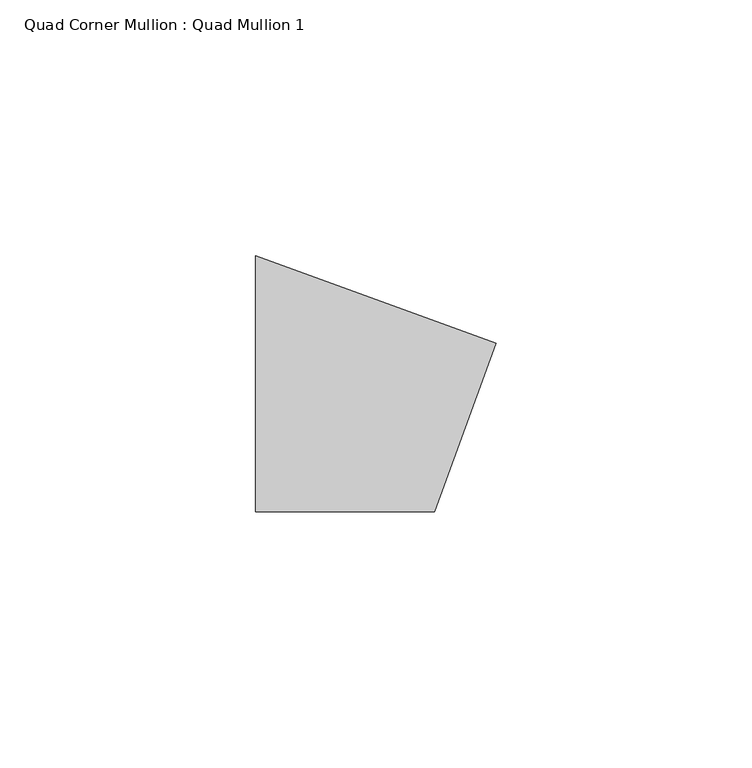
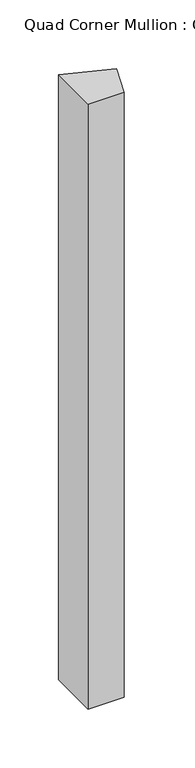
"""IFC4 building model written with IfcOpenShell, lengths in millimetres: member geometry, Quad Corner Mullion : Quad Mullion 1."""

from ifc_helpers import new_model, si_unit, frame, origin, place, context, project, spatial, polyline, outline, extrude, source, transform, mapped, element, save


def quad_corner_mullion_quad_mullion_1_dd54019c(model_context):
    return source(origin(), model_context, "Body", "SweptSolid", [
        extrude(outline(polyline([(29.4794426, 7.8989928), (17.5051885, -25.0), (-17.5051885, -25.0), (-17.5051885, 25.0), (29.4794426, 7.8989928)])), frame((0.0, 0.0, -626.6666667), z_axis=(0.0, 0.0, 1.0), x_axis=(1.0, 0.0, 0.0)), (0.0, 0.0, 1.0), 626.6666667),
    ])


if __name__ == "__main__":
    model = new_model("IFC4")
    model_context = context("Model", 3, world=origin())
    ifc_project = project(units=[si_unit("LENGTHUNIT", "METRE", prefix="MILLI")], contexts=[model_context])
    site = spatial("IfcSite", under=ifc_project)
    building = spatial("IfcBuilding", under=site)
    placement = place(None, origin())
    quad_corner_mullion_quad_mullion_1_shape = quad_corner_mullion_quad_mullion_1_dd54019c(model_context)
    element("IfcMember", 1, ObjectType="Quad Corner Mullion : Quad Mullion 1", at=placement, inside=building, context=model_context, shape_type="MappedRepresentation", body=[
        mapped(quad_corner_mullion_quad_mullion_1_shape, transform((0.0, 0.0, 0.0), x_axis=(1.0, 0.0, 0.0), y_axis=(0.0, 1.0, 0.0), z_axis=(0.0, 0.0, 1.0))),
    ])
    save(model, "model.ifc")
